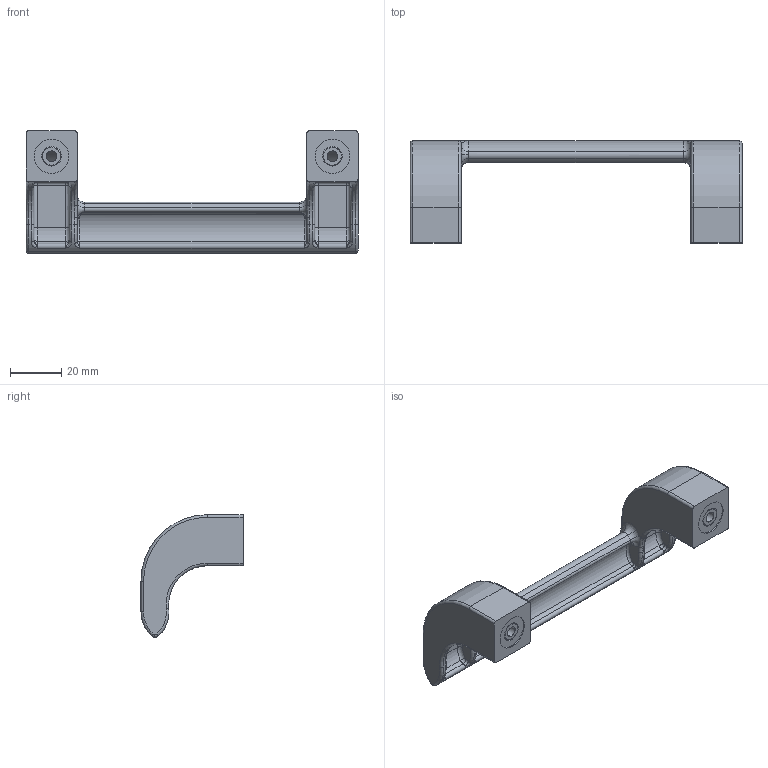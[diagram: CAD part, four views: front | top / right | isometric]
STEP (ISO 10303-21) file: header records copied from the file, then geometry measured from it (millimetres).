
FILE_DESCRIPTION (( 'STEP AP203' ), '1' );
FILE_NAME ('084.506.008.STEP', '2018-03-12T10:41:10', ( '' ), ( '' ), 'SwSTEP 2.0', 'SolidWorks 2016', '' );
FILE_SCHEMA (( 'CONFIG_CONTROL_DESIGN' ));
Length unit declared in the file: millimetre
Products named in the file (3): 084.506.008L; 084.312.008; 084.506.008
Assembly tree (3 placements, depth 2):
  084.506.008
    084.506.008L
    084.312.008  x2
Bounding box: 130 x 40 x 48 mm (x, y, z)
Volume: 40064.9 mm3; surface area: 17521.3 mm2
Topology: 3 solids, 3 shells, 287 faces, 740 edges, 445 vertices
Faces by surface type: cylinder 115, torus 64, bspline 60, plane 44, sphere 4
Entity records: 15532 total; most frequent: CARTESIAN_POINT 10130, ORIENTED_EDGE 1116, DIRECTION 1073, EDGE_CURVE 558, AXIS2_PLACEMENT_3D 462, VERTEX_POINT 337, CIRCLE 265, EDGE_LOOP 237
